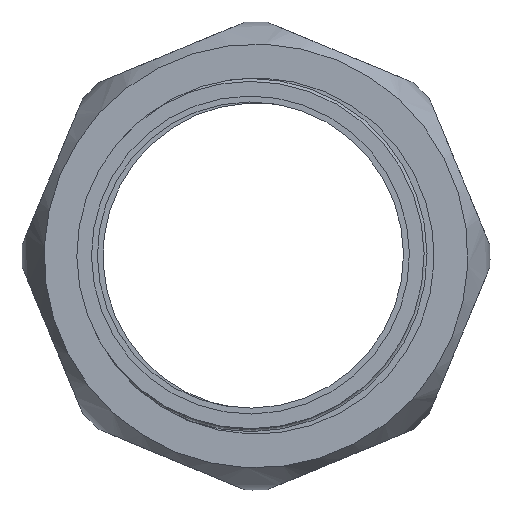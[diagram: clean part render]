
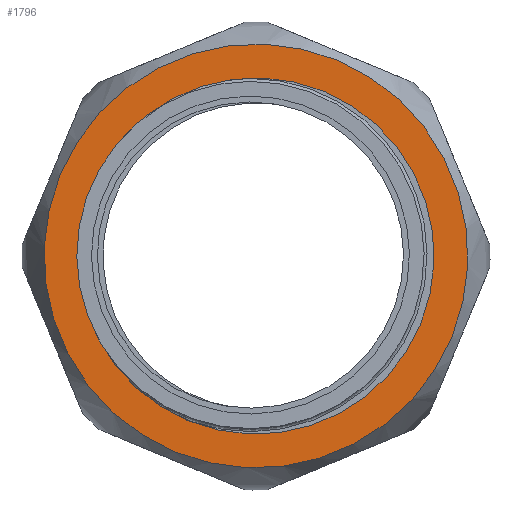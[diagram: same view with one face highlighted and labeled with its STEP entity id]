
A CAD part, left-side view. The second image highlights one B-rep face of the part: STEP entity #1796.
In plain terms, the highlighted planar face has unit normal (-1, 0, 0) as drawn and (1, 0, 0) by its records, which use the part's own axes.
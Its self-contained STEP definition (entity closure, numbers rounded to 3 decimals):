
#1762=CARTESIAN_POINT('',(25.0,36.,0.0));
#1763=VERTEX_POINT('',#1762);
#1764=CARTESIAN_POINT('',(25.0,0.0,0.0));
#1765=DIRECTION('',(1.0,0.0,0.0));
#1766=DIRECTION('',(0.0,1.0,0.0));
#1767=AXIS2_PLACEMENT_3D('',#1764,#1765,#1766);
#1768=CIRCLE('',#1767,36.);
#1769=EDGE_CURVE('',#1763,#1763,#1768,.T.);
#1777=CARTESIAN_POINT('',(25.0,33.125,0.0));
#1778=DIRECTION('',(1.0,0.0,0.0));
#1779=DIRECTION('',(0.0,0.0,-1.0));
#1780=AXIS2_PLACEMENT_3D('',#1777,#1778,#1779);
#1781=PLANE('',#1780);
#1782=ORIENTED_EDGE('',*,*,#1769,.T.);
#1783=EDGE_LOOP('',(#1782));
#1784=FACE_OUTER_BOUND('',#1783,.T.);
#1785=CARTESIAN_POINT('',(25.0,30.25,0.0));
#1786=VERTEX_POINT('',#1785);
#1787=CARTESIAN_POINT('',(25.0,0.0,0.0));
#1788=DIRECTION('',(1.0,0.0,0.0));
#1789=DIRECTION('',(0.0,1.0,0.0));
#1790=AXIS2_PLACEMENT_3D('',#1787,#1788,#1789);
#1791=CIRCLE('',#1790,30.25);
#1792=EDGE_CURVE('',#1786,#1786,#1791,.T.);
#1793=ORIENTED_EDGE('',*,*,#1792,.F.);
#1794=EDGE_LOOP('',(#1793));
#1795=FACE_BOUND('',#1794,.T.);
#1796=ADVANCED_FACE('',(#1784,#1795),#1781,.T.);
